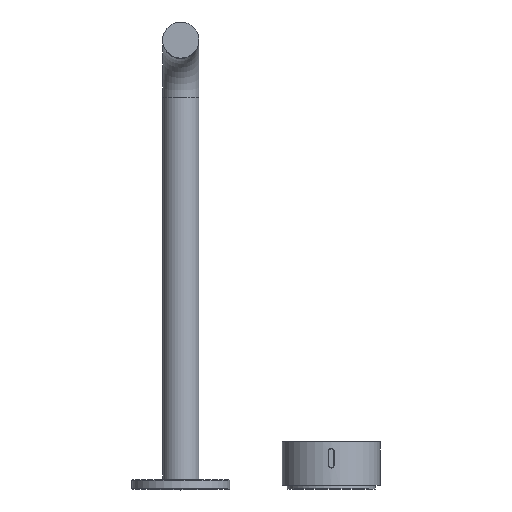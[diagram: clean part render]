
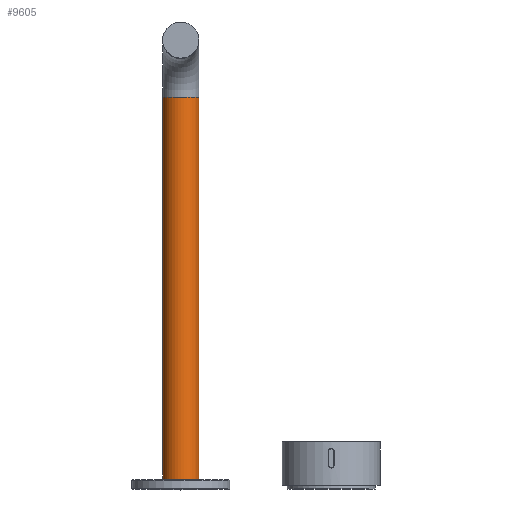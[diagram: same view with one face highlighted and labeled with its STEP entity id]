
A CAD part, top view. The second image highlights one B-rep face of the part: STEP entity #9605.
In plain terms, the highlighted cylindrical face has radius 12 mm (diameter 24 mm), a partial arc.
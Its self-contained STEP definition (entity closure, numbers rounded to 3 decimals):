
#4031=DIRECTION('',(0.,-1.,0.));
#4032=VECTOR('',#4031,254.5);
#4033=CARTESIAN_POINT('',(-88.,260.5,0.));
#4034=LINE('',#4033,#4032);
#4143=DIRECTION('',(0.,-1.,0.));
#4144=VECTOR('',#4143,254.5);
#4145=CARTESIAN_POINT('',(-112.,260.5,0.));
#4146=LINE('',#4145,#4144);
#4162=CARTESIAN_POINT('',(-100.,6.,0.));
#4163=DIRECTION('',(0.,-1.,0.));
#4164=DIRECTION('',(1.,0.,0.));
#4165=AXIS2_PLACEMENT_3D('',#4162,#4163,#4164);
#4305=CARTESIAN_POINT('',(-100.,260.5,0.));
#4306=DIRECTION('',(0.,-1.,0.));
#4307=DIRECTION('',(1.,0.,0.));
#4308=AXIS2_PLACEMENT_3D('',#4305,#4306,#4307);
#6018=CARTESIAN_POINT('',(-88.,260.5,0.));
#6020=VERTEX_POINT('',#6018);
#6026=CARTESIAN_POINT('',(-112.,260.5,0.));
#6027=VERTEX_POINT('',#6026);
#6049=CARTESIAN_POINT('',(-112.,6.,0.));
#6050=CARTESIAN_POINT('',(-88.,6.,0.));
#6051=VERTEX_POINT('',#6049);
#6052=VERTEX_POINT('',#6050);
#9592=CARTESIAN_POINT('',(-100.,6.,0.));
#9593=DIRECTION('',(0.,-1.,0.));
#9594=DIRECTION('',(-1.,0.,0.));
#9595=AXIS2_PLACEMENT_3D('',#9592,#9593,#9594);
#9596=CYLINDRICAL_SURFACE('',#9595,12.);
#9598=ORIENTED_EDGE('',*,*,#9597,.T.);
#9599=ORIENTED_EDGE('',*,*,#9572,.F.);
#9601=ORIENTED_EDGE('',*,*,#9600,.F.);
#9602=ORIENTED_EDGE('',*,*,#9569,.T.);
#9603=EDGE_LOOP('',(#9598,#9599,#9601,#9602));
#9604=FACE_OUTER_BOUND('',#9603,.F.);
#4166=CIRCLE('',#4165,12.);
#4309=CIRCLE('',#4308,12.);
#9569=EDGE_CURVE('',#6020,#6052,#4034,.T.);
#9572=EDGE_CURVE('',#6027,#6051,#4146,.T.);
#9597=EDGE_CURVE('',#6052,#6051,#4166,.T.);
#9600=EDGE_CURVE('',#6020,#6027,#4309,.T.);
#9605=ADVANCED_FACE('',(#9604),#9596,.T.);
